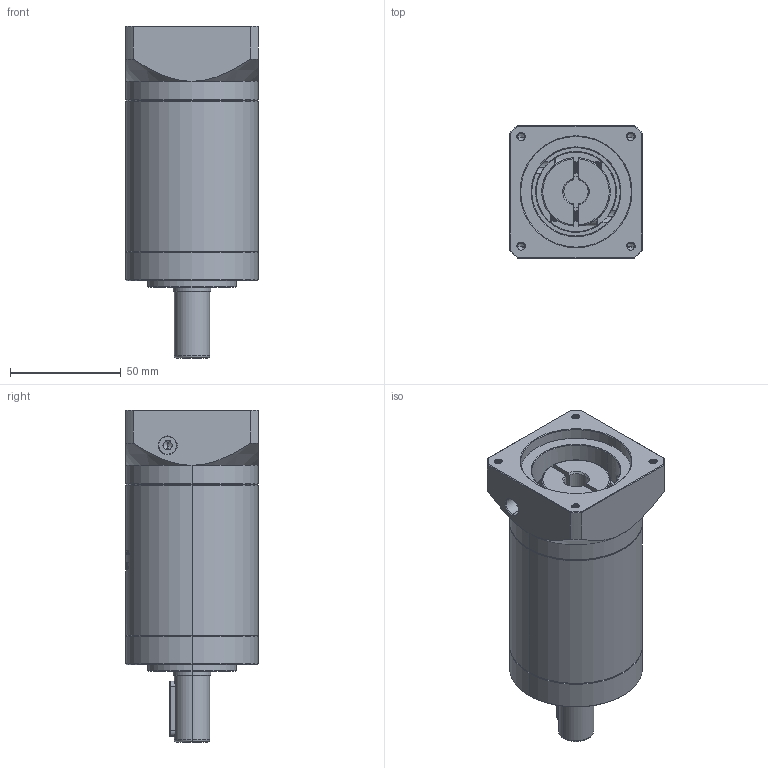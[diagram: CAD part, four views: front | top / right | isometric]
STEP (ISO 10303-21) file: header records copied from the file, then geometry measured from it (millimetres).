
FILE_DESCRIPTION (( 'STEP AP214' ), '1' );
FILE_NAME ('ZE60-D16-L3-11-50-70-M4.STEP', '2022-04-17T15:16:30', ( '' ), ( 'Microsoft' ), 'SwSTEP 2.0', 'SolidWorks 2016', '' );
FILE_SCHEMA (( 'AUTOMOTIVE_DESIGN' ));
Length unit declared in the file: millimetre
Products named in the file (1): ZE60-D16-L3-11-50-70-M4
Bounding box: 60 x 60 x 150 mm (x, y, z)
Volume: 313845 mm3; surface area: 49382.7 mm2
Topology: 6 solids, 6 shells, 1706 faces, 4640 edges, 3006 vertices
Faces by surface type: plane 732, cylinder 423, bspline 311, cone 222, torus 18
Entity records: 100047 total; most frequent: CARTESIAN_POINT 42622, ORIENTED_EDGE 9236, DIRECTION 6586, EDGE_CURVE 4618, VERTEX_POINT 3006, LINE 2300, VECTOR 2300, AXIS2_PLACEMENT_3D 2143
